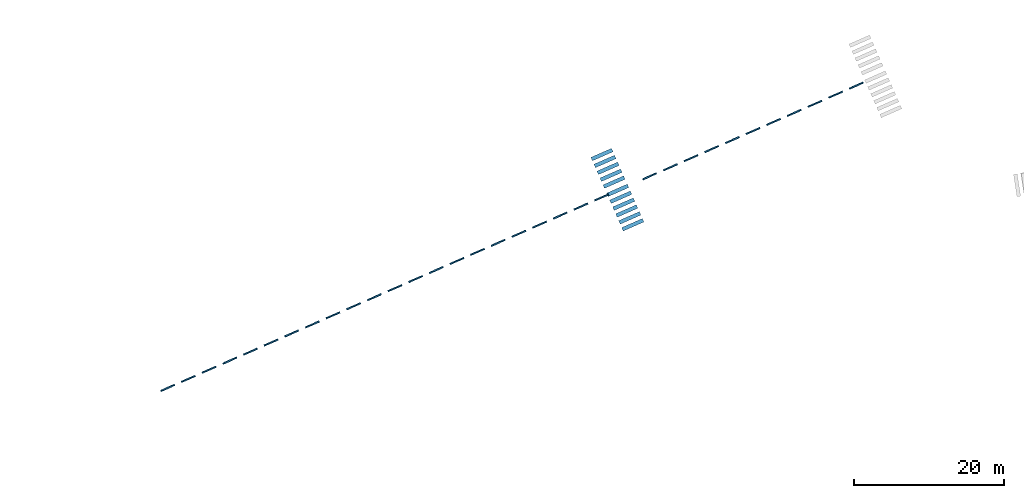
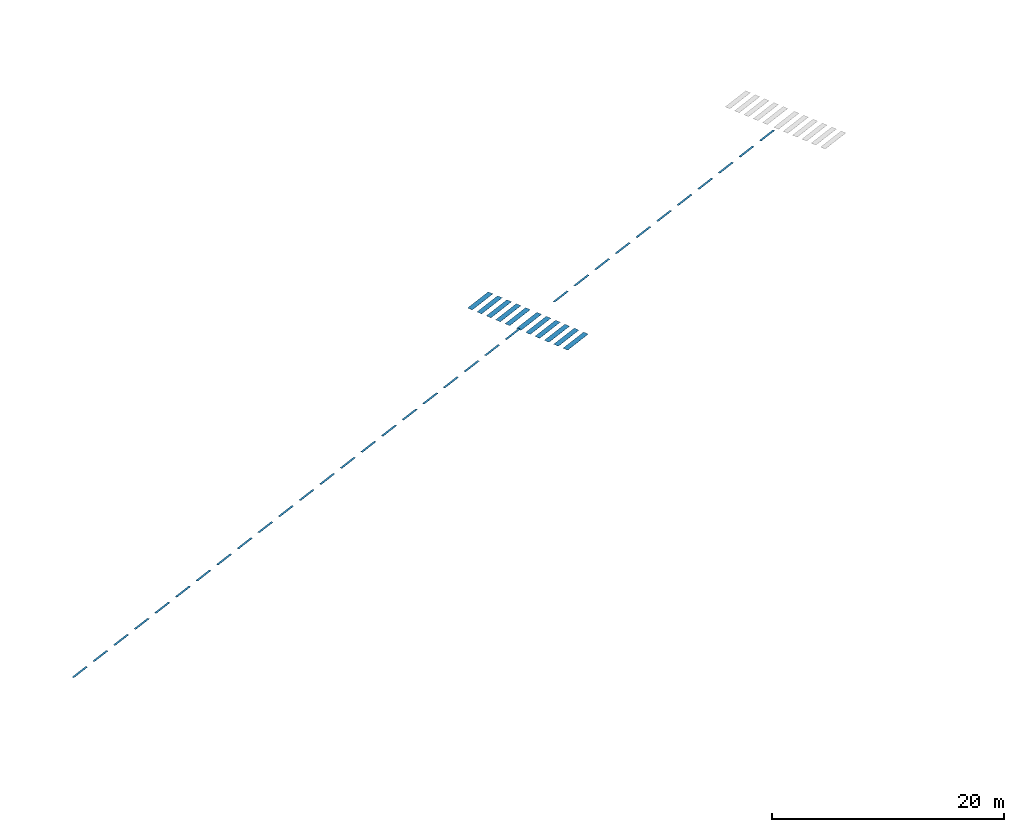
# One storey, part 82 of 112: 44 walls.
"""IFC2X3 building model written with IfcOpenShell, lengths in millimetres."""

from ifc_helpers import new_model, entity, si_unit, converted_unit, derived_unit, direction, frame, frame_2d, origin, origin_2d_with_axis, place, context, subcontext, project, spatial, rectangle, extrude, material, type_object, element, save


model = new_model("IFC2X3")

# Units and contexts
model_context = context("Model", 3, precision=0.01, world=origin(), true_north=direction((6.123031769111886e-17, 1.0)))
body_context = subcontext(model_context, "Body", "Model", "MODEL_VIEW")
ifc_project = project(units=[si_unit("LENGTHUNIT", "METRE", prefix="MILLI"), si_unit("AREAUNIT", "SQUARE_METRE"), si_unit("VOLUMEUNIT", "CUBIC_METRE"), converted_unit("PLANEANGLEUNIT", "DEGREE", entity("IfcRatioMeasure", 0.017453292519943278), si_unit("PLANEANGLEUNIT", "RADIAN"), dimensions=[0, 0, 0, 0, 0, 0, 0]), si_unit("MASSUNIT", "GRAM", prefix="KILO"), derived_unit("MASSDENSITYUNIT", [(si_unit("MASSUNIT", "GRAM", prefix="KILO"), 1), (si_unit("LENGTHUNIT", "METRE"), -3)]), derived_unit("MOMENTOFINERTIAUNIT", [(si_unit("LENGTHUNIT", "METRE"), 4)]), si_unit("TIMEUNIT", "SECOND"), si_unit("FREQUENCYUNIT", "HERTZ"), si_unit("THERMODYNAMICTEMPERATUREUNIT", "DEGREE_CELSIUS"), derived_unit("THERMALTRANSMITTANCEUNIT", [(si_unit("MASSUNIT", "GRAM", prefix="KILO"), 1), (si_unit("THERMODYNAMICTEMPERATUREUNIT", "KELVIN"), -1), (si_unit("TIMEUNIT", "SECOND"), -3)]), derived_unit("THERMALCONDUCTANCEUNIT", [(si_unit("MASSUNIT", "GRAM", prefix="KILO"), 1), (si_unit("LENGTHUNIT", "METRE"), 1), (si_unit("THERMODYNAMICTEMPERATUREUNIT", "KELVIN"), -1), (si_unit("TIMEUNIT", "SECOND"), -3)]), derived_unit("VOLUMETRICFLOWRATEUNIT", [(si_unit("LENGTHUNIT", "METRE"), 3), (si_unit("TIMEUNIT", "SECOND"), -1)]), derived_unit("MASSFLOWRATEUNIT", [(si_unit("MASSUNIT", "GRAM", prefix="KILO"), 1), (si_unit("TIMEUNIT", "SECOND"), -1)]), derived_unit("ROTATIONALFREQUENCYUNIT", [(si_unit("TIMEUNIT", "SECOND"), -1)]), si_unit("ELECTRICCURRENTUNIT", "AMPERE"), si_unit("ELECTRICVOLTAGEUNIT", "VOLT"), si_unit("POWERUNIT", "WATT"), converted_unit("FORCEUNIT", "KIP", entity("IfcRatioMeasure", 2.088543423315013e-05), si_unit("FORCEUNIT", "NEWTON"), dimensions=[1, 1, -2, 0, 0, 0, 0]), si_unit("ILLUMINANCEUNIT", "LUX"), si_unit("LUMINOUSFLUXUNIT", "LUMEN"), si_unit("LUMINOUSINTENSITYUNIT", "CANDELA"), derived_unit("USERDEFINED", [(si_unit("MASSUNIT", "GRAM", prefix="KILO"), -1), (si_unit("LENGTHUNIT", "METRE"), -2), (si_unit("TIMEUNIT", "SECOND"), 3), (si_unit("LUMINOUSFLUXUNIT", "LUMEN"), 1)]), derived_unit("USERDEFINED", [(si_unit("MASSUNIT", "GRAM", prefix="KILO"), 1), (si_unit("LENGTHUNIT", "METRE"), 3), (si_unit("TIMEUNIT", "SECOND"), -3), (si_unit("ELECTRICCURRENTUNIT", "AMPERE"), -2)]), derived_unit("USERDEFINED", [(si_unit("LENGTHUNIT", "METRE"), 2), (si_unit("TIMEUNIT", "SECOND"), -2)]), derived_unit("SOUNDPOWERUNIT", [(si_unit("MASSUNIT", "GRAM", prefix="KILO"), 1), (si_unit("LENGTHUNIT", "METRE"), 2), (si_unit("TIMEUNIT", "SECOND"), -3)]), derived_unit("SOUNDPRESSUREUNIT", [(si_unit("MASSUNIT", "GRAM", prefix="KILO"), 1), (si_unit("LENGTHUNIT", "METRE"), -1), (si_unit("TIMEUNIT", "SECOND"), -2)]), derived_unit("LINEARVELOCITYUNIT", [(si_unit("LENGTHUNIT", "METRE"), 1), (si_unit("TIMEUNIT", "SECOND"), -1)]), si_unit("PRESSUREUNIT", "PASCAL"), derived_unit("USERDEFINED", [(si_unit("LENGTHUNIT", "METRE"), -2), (si_unit("MASSUNIT", "GRAM", prefix="KILO"), 1), (si_unit("TIMEUNIT", "SECOND"), -2)]), derived_unit("LINEARFORCEUNIT", [(si_unit("MASSUNIT", "GRAM", prefix="KILO"), 1), (si_unit("LENGTHUNIT", "METRE"), 1), (si_unit("TIMEUNIT", "SECOND"), -2), (si_unit("LENGTHUNIT", "METRE"), -1)]), derived_unit("PLANARFORCEUNIT", [(si_unit("MASSUNIT", "GRAM", prefix="KILO"), 1), (si_unit("LENGTHUNIT", "METRE"), 1), (si_unit("TIMEUNIT", "SECOND"), -2), (si_unit("LENGTHUNIT", "METRE"), -2)]), derived_unit("SPECIFICHEATCAPACITYUNIT", [(si_unit("LENGTHUNIT", "METRE"), 2), (si_unit("TIMEUNIT", "SECOND"), -2), (si_unit("THERMODYNAMICTEMPERATUREUNIT", "KELVIN"), -1)]), derived_unit("VAPORPERMEABILITYUNIT", [(si_unit("TIMEUNIT", "SECOND"), 1), (si_unit("LENGTHUNIT", "METRE"), -1)]), derived_unit("DYNAMICVISCOSITYUNIT", [(si_unit("MASSUNIT", "GRAM", prefix="KILO"), 1), (si_unit("LENGTHUNIT", "METRE"), -1), (si_unit("TIMEUNIT", "SECOND"), -1)]), derived_unit("THERMALEXPANSIONCOEFFICIENTUNIT", [(si_unit("THERMODYNAMICTEMPERATUREUNIT", "KELVIN"), -1)])], contexts=[model_context])

# Site, building, storey
site_placement = place(None, frame((0.0, 0.0, 0.0), z_axis=(0.0, 0.0, 1.0), x_axis=(0.8191520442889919, 0.5735764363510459, 0.0)))
site = spatial("IfcSite", under=ifc_project, at=site_placement, Name="Default", CompositionType="ELEMENT")
building_placement = place(site_placement, origin())
building = spatial("IfcBuilding", under=site, at=building_placement, CompositionType="ELEMENT")
storey_placement = place(building_placement, frame((0.0, 0.0, -3600.0)))
storey = spatial("IfcBuildingStorey", under=building, at=storey_placement, Name="0.UG -3.60", CompositionType="ELEMENT", Elevation=-3600.0000000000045)

# Walls
ifc_material = material(Name="road_markirovka")
wall_type_1 = type_object("IfcWallType", Name="81", PredefinedType="NOTDEFINED", material=ifc_material)
wall_1_placement = place(storey_placement, frame((177587.2357149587, 400225.39520017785, 450.0)))
element("IfcWall", 1, at=wall_1_placement, inside=storey, type_object=wall_type_1, material=ifc_material, Name="81:81", ObjectType="81:81", context=body_context, shape_type="SweptSolid", body=[
    extrude(rectangle(XDim=200.00000000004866, YDim=2000.0000000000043, at=origin_2d_with_axis()), frame((1000.2111274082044, 293.9894016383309, 0.0), z_axis=(0.0, 0.0, 1.0), x_axis=(0.1959275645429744, 0.9806183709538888, 0.0)), (0.0, 0.0, 1.0), 9.999999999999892),
])
wall_type_2 = type_object("IfcWallType", Name="81", PredefinedType="NOTDEFINED", material=ifc_material)
wall_2_placement = place(storey_placement, frame((180529.09082782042, 399637.6125065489, 450.0)))
element("IfcWall", 2, at=wall_2_placement, inside=storey, type_object=wall_type_2, material=ifc_material, Name="81 203199:81 203199", ObjectType="81 203199:81 203199", context=body_context, shape_type="SweptSolid", body=[
    extrude(rectangle(XDim=200.00000000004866, YDim=1999.999999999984, at=frame_2d((3.739586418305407e-11, -1.0231815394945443e-11), x_axis=(1.0, 0.0))), frame((1000.2111274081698, 293.9894016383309, 0.0), z_axis=(0.0, 0.0, 1.0), x_axis=(0.1959275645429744, 0.9806183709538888, 0.0)), (0.0, 0.0, 1.0), 9.999999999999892),
])
wall_type_3 = type_object("IfcWallType", Name="81", PredefinedType="NOTDEFINED", material=ifc_material)
wall_3_placement = place(storey_placement, frame((183470.94594068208, 399049.8298129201, 450.0)))
element("IfcWall", 3, at=wall_3_placement, inside=storey, type_object=wall_type_3, material=ifc_material, Name="81 203208:81 203208", ObjectType="81 203208:81 203208", context=body_context, shape_type="SweptSolid", body=[
    extrude(rectangle(XDim=199.99999999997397, YDim=2000.0000000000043, at=frame_2d((6.794920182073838e-11, 1.3585577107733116e-11), x_axis=(1.0, 0.0))), frame((1000.2111274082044, 293.98940163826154, 0.0), z_axis=(0.0, 0.0, 1.0), x_axis=(0.19592756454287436, 0.9806183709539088, 0.0)), (0.0, 0.0, 1.0), 9.999999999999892),
])
wall_type_4 = type_object("IfcWallType", Name="81", PredefinedType="NOTDEFINED", material=ifc_material)
wall_4_placement = place(storey_placement, frame((174645.38060209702, 400813.17789380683, 450.0)))
element("IfcWall", 4, at=wall_4_placement, inside=storey, type_object=wall_type_4, material=ifc_material, Name="81 203229:81 203229", ObjectType="81 203229:81 203229", context=body_context, shape_type="SweptSolid", body=[
    extrude(rectangle(XDim=200.00000000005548, YDim=1999.999999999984, at=frame_2d((-3.396394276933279e-12, 1.693933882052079e-11), x_axis=(1.0, 0.0))), frame((1000.2111274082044, 293.9894016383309, 0.0), z_axis=(0.0, 0.0, 1.0), x_axis=(0.19592756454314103, 0.9806183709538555, 0.0)), (0.0, 0.0, 1.0), 9.999999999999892),
])
wall_type_5 = type_object("IfcWallType", Name="81", PredefinedType="NOTDEFINED", material=ifc_material)
wall_5_placement = place(storey_placement, frame((186412.80105354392, 398462.0471192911, 450.0)))
element("IfcWall", 5, at=wall_5_placement, inside=storey, type_object=wall_type_5, material=ifc_material, Name="81 203270:81 203270", ObjectType="81 203270:81 203270", context=body_context, shape_type="SweptSolid", body=[
    extrude(rectangle(XDim=200.00000000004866, YDim=2000.0000000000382, at=frame_2d((3.396394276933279e-12, -1.693933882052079e-11), x_axis=(1.0, 0.0))), frame((1000.2111274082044, 293.9894016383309, 0.0), z_axis=(0.0, 0.0, 1.0), x_axis=(0.1959275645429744, 0.9806183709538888, 0.0)), (0.0, 0.0, 1.0), 9.999999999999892),
])
wall_type_6 = type_object("IfcWallType", Name="81", PredefinedType="NOTDEFINED", material=ifc_material)
wall_6_placement = place(storey_placement, frame((189354.65616640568, 397874.2644256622, 450.0)))
element("IfcWall", 6, at=wall_6_placement, inside=storey, type_object=wall_type_6, material=ifc_material, Name="81 203274:81 203274", ObjectType="81 203274:81 203274", context=body_context, shape_type="SweptSolid", body=[
    extrude(rectangle(XDim=199.99999999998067, YDim=2000.0000000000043, at=frame_2d((6.45670183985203e-11, 3.058175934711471e-11), x_axis=(1.0, 0.0))), frame((1000.211127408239, 293.98940163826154, 0.0), z_axis=(0.0, 0.0, 1.0), x_axis=(0.195927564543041, 0.9806183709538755, 0.0)), (0.0, 0.0, 1.0), 9.999999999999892),
])
wall_type_7 = type_object("IfcWallType", Name="81", PredefinedType="NOTDEFINED", material=ifc_material)
wall_7_placement = place(storey_placement, frame((195238.36639212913, 396698.69903840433, 450.0)))
element("IfcWall", 7, at=wall_7_placement, inside=storey, type_object=wall_type_7, material=ifc_material, Name="81 203276:81 203276", ObjectType="81 203276:81 203276", context=body_context, shape_type="SweptSolid", body=[
    extrude(rectangle(XDim=200.00000000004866, YDim=1999.999999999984, at=frame_2d((3.739586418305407e-11, -1.0231815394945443e-11), x_axis=(1.0, 0.0))), frame((1000.2111274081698, 293.9894016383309, 0.0), z_axis=(0.0, 0.0, 1.0), x_axis=(0.1959275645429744, 0.9806183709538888, 0.0)), (0.0, 0.0, 1.0), 9.999999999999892),
])
wall_type_8 = type_object("IfcWallType", Name="81", PredefinedType="NOTDEFINED", material=ifc_material)
wall_8_placement = place(storey_placement, frame((192296.5112792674, 397286.4817320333, 450.0)))
element("IfcWall", 8, at=wall_8_placement, inside=storey, type_object=wall_type_8, material=ifc_material, Name="81 203282:81 203282", ObjectType="81 203282:81 203282", context=body_context, shape_type="SweptSolid", body=[
    extrude(rectangle(XDim=199.99999999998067, YDim=2000.0000000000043, at=frame_2d((7.136691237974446e-11, -3.410605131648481e-12), x_axis=(1.0, 0.0))), frame((1000.2111274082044, 293.98940163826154, 0.0), z_axis=(0.0, 0.0, 1.0), x_axis=(0.195927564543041, 0.9806183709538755, 0.0)), (0.0, 0.0, 1.0), 9.999999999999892),
])
wall_type_9 = type_object("IfcWallType", Name="81", PredefinedType="NOTDEFINED", material=ifc_material)
wall_9_placement = place(storey_placement, frame((198180.2215049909, 396110.9163447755, 450.0)))
element("IfcWall", 9, at=wall_9_placement, inside=storey, type_object=wall_type_9, material=ifc_material, Name="81 203300:81 203300", ObjectType="81 203300:81 203300", context=body_context, shape_type="SweptSolid", body=[
    extrude(rectangle(XDim=200.00000000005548, YDim=1999.99999999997, at=frame_2d((3.057465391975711e-11, 2.3874235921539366e-11), x_axis=(1.0, 0.0))), frame((1000.2111274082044, 293.9894016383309, 0.0), z_axis=(0.0, 0.0, 1.0), x_axis=(0.19592756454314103, 0.9806183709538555, 0.0)), (0.0, 0.0, 1.0), 9.999999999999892),
])
wall_type_10 = type_object("IfcWallType", Name="81", PredefinedType="NOTDEFINED", material=ifc_material)
wall_10_placement = place(storey_placement, frame((165819.8152635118, 402576.5259746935, 450.0)))
element("IfcWall", 10, at=wall_10_placement, inside=storey, type_object=wall_type_10, material=ifc_material, Name="81 203321:81 203321", ObjectType="81 203321:81 203321", context=body_context, shape_type="SweptSolid", body=[
    extrude(rectangle(XDim=200.00000000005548, YDim=1999.999999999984, at=frame_2d((3.397815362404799e-11, 6.764366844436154e-12), x_axis=(1.0, 0.0))), frame((1000.2111274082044, 293.9894016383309, 0.0), z_axis=(0.0, 0.0, 1.0), x_axis=(0.19592756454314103, 0.9806183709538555, 0.0)), (0.0, 0.0, 1.0), 9.999999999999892),
])
wall_type_11 = type_object("IfcWallType", Name="81", PredefinedType="NOTDEFINED", material=ifc_material)
wall_11_placement = place(storey_placement, frame((204063.9317307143, 394935.35095751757, 450.0)))
element("IfcWall", 11, at=wall_11_placement, inside=storey, type_object=wall_type_11, material=ifc_material, Name="81 203322:81 203322", ObjectType="81 203322:81 203322", context=body_context, shape_type="SweptSolid", body=[
    extrude(rectangle(XDim=199.99999999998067, YDim=2000.0000000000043, at=frame_2d((6.797051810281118e-11, 1.3585577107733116e-11), x_axis=(1.0, 0.0))), frame((1000.2111274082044, 293.98940163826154, 0.0), z_axis=(0.0, 0.0, 1.0), x_axis=(0.195927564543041, 0.9806183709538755, 0.0)), (0.0, 0.0, 1.0), 9.999999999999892),
])
wall_type_12 = type_object("IfcWallType", Name="81", PredefinedType="NOTDEFINED", material=ifc_material)
wall_12_placement = place(storey_placement, frame((201122.07661785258, 395523.1336511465, 450.0)))
element("IfcWall", 12, at=wall_12_placement, inside=storey, type_object=wall_type_12, material=ifc_material, Name="81 203329:81 203329", ObjectType="81 203329:81 203329", context=body_context, shape_type="SweptSolid", body=[
    extrude(rectangle(XDim=199.9999999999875, YDim=1999.999999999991, at=frame_2d((6.45670183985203e-11, 3.058175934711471e-11), x_axis=(1.0, 0.0))), frame((1000.211127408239, 293.98940163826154, 0.0), z_axis=(0.0, 0.0, 1.0), x_axis=(0.1959275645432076, 0.9806183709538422, 0.0)), (0.0, 0.0, 1.0), 9.999999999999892),
])
wall_type_13 = type_object("IfcWallType", Name="81", PredefinedType="NOTDEFINED", material=ifc_material)
wall_13_placement = place(storey_placement, frame((168761.67037637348, 401988.7432810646, 450.0)))
element("IfcWall", 13, at=wall_13_placement, inside=storey, type_object=wall_type_13, material=ifc_material, Name="81 203334:81 203334", ObjectType="81 203334:81 203334", context=body_context, shape_type="SweptSolid", body=[
    extrude(rectangle(XDim=200.00000000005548, YDim=1999.9999999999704, at=frame_2d((3.397815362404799e-11, 6.764366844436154e-12), x_axis=(1.0, 0.0))), frame((1000.2111274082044, 293.9894016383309, 0.0), z_axis=(0.0, 0.0, 1.0), x_axis=(0.19592756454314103, 0.9806183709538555, 0.0)), (0.0, 0.0, 1.0), 9.999999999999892),
])
wall_type_14 = type_object("IfcWallType", Name="81", PredefinedType="NOTDEFINED", material=ifc_material)
wall_14_placement = place(storey_placement, frame((162877.96015065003, 403164.3086683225, 450.0)))
element("IfcWall", 14, at=wall_14_placement, inside=storey, type_object=wall_type_14, material=ifc_material, Name="81 203335:81 203335", ObjectType="81 203335:81 203335", context=body_context, shape_type="SweptSolid", body=[
    extrude(rectangle(XDim=200.00000000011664, YDim=1999.999999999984, at=frame_2d((-6.794920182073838e-11, -1.3585577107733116e-11), x_axis=(1.0, 0.0))), frame((1000.2111274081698, 293.9894016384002, 0.0), z_axis=(0.0, 0.0, 1.0), x_axis=(0.19592756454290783, 0.9806183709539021, 0.0)), (0.0, 0.0, 1.0), 9.999999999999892),
])
wall_type_15 = type_object("IfcWallType", Name="81", PredefinedType="NOTDEFINED", material=ifc_material)
wall_15_placement = place(storey_placement, frame((159936.10503778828, 403752.0913619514, 450.0)))
element("IfcWall", 15, at=wall_15_placement, inside=storey, type_object=wall_type_15, material=ifc_material, Name="81 203340:81 203340", ObjectType="81 203340:81 203340", context=body_context, shape_type="SweptSolid", body=[
    extrude(rectangle(XDim=200.00000000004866, YDim=2000.0000000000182, at=origin_2d_with_axis()), frame((1000.2111274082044, 293.9894016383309, 0.0), z_axis=(0.0, 0.0, 1.0), x_axis=(0.1959275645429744, 0.9806183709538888, 0.0)), (0.0, 0.0, 1.0), 9.999999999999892),
])
wall_type_16 = type_object("IfcWallType", Name="81", PredefinedType="NOTDEFINED", material=ifc_material)
wall_16_placement = place(storey_placement, frame((156994.2499249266, 404339.8740555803, 450.0)))
element("IfcWall", 16, at=wall_16_placement, inside=storey, type_object=wall_type_16, material=ifc_material, Name="81 203342:81 203342", ObjectType="81 203342:81 203342", context=body_context, shape_type="SweptSolid", body=[
    extrude(rectangle(XDim=200.00000000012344, YDim=1999.9999999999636, at=frame_2d((-3.397104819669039e-11, -6.764366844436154e-12), x_axis=(1.0, 0.0))), frame((1000.2111274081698, 293.9894016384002, 0.0), z_axis=(0.0, 0.0, 1.0), x_axis=(0.19592756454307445, 0.9806183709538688, 0.0)), (0.0, 0.0, 1.0), 9.999999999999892),
])
wall_type_17 = type_object("IfcWallType", Name="81", PredefinedType="NOTDEFINED", material=ifc_material)
wall_17_placement = place(storey_placement, frame((151110.5396992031, 405515.4394428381, 450.0)))
element("IfcWall", 17, at=wall_17_placement, inside=storey, type_object=wall_type_17, material=ifc_material, Name="81 203344:81 203344", ObjectType="81 203344:81 203344", context=body_context, shape_type="SweptSolid", body=[
    extrude(rectangle(XDim=200.0000000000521, YDim=1999.999999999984, at=frame_2d((3.397104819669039e-11, 6.764366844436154e-12), x_axis=(1.0, 0.0))), frame((1000.211127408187, 293.9894016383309, 0.0), z_axis=(0.0, 0.0, 1.0), x_axis=(0.1959275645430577, 0.9806183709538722, 0.0)), (0.0, 0.0, 1.0), 9.999999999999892),
])
wall_type_18 = type_object("IfcWallType", Name="81", PredefinedType="NOTDEFINED", material=ifc_material)
wall_18_placement = place(storey_placement, frame((148168.6845863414, 406103.2221364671, 450.0)))
element("IfcWall", 18, at=wall_18_placement, inside=storey, type_object=wall_type_18, material=ifc_material, Name="81 203346:81 203346", ObjectType="81 203346:81 203346", context=body_context, shape_type="SweptSolid", body=[
    extrude(rectangle(XDim=200.00000000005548, YDim=2000.000000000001, at=frame_2d((-3.396394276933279e-12, 1.693933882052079e-11), x_axis=(1.0, 0.0))), frame((1000.2111274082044, 293.9894016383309, 0.0), z_axis=(0.0, 0.0, 1.0), x_axis=(0.19592756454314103, 0.9806183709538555, 0.0)), (0.0, 0.0, 1.0), 9.999999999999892),
])
wall_type_19 = type_object("IfcWallType", Name="81", PredefinedType="NOTDEFINED", material=ifc_material)
wall_19_placement = place(storey_placement, frame((142284.97436061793, 407278.7875237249, 450.0)))
element("IfcWall", 19, at=wall_19_placement, inside=storey, type_object=wall_type_19, material=ifc_material, Name="81 203348:81 203348", ObjectType="81 203348:81 203348", context=body_context, shape_type="SweptSolid", body=[
    extrude(rectangle(XDim=200.00000000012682, YDim=1999.9999999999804, at=frame_2d((-3.737454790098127e-11, 1.0231815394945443e-11), x_axis=(1.0, 0.0))), frame((1000.211127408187, 293.9894016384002, 0.0), z_axis=(0.0, 0.0, 1.0), x_axis=(0.19592756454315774, 0.9806183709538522, 0.0)), (0.0, 0.0, 1.0), 9.999999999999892),
])
wall_type_20 = type_object("IfcWallType", Name="81", PredefinedType="NOTDEFINED", material=ifc_material)
wall_20_placement = place(storey_placement, frame((145226.82947347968, 406691.004830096, 450.0)))
element("IfcWall", 20, at=wall_20_placement, inside=storey, type_object=wall_type_20, material=ifc_material, Name="81 203350:81 203350", ObjectType="81 203350:81 203350", context=body_context, shape_type="SweptSolid", body=[
    extrude(rectangle(XDim=200.00000000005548, YDim=2000.000000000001, at=frame_2d((-3.396394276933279e-12, 1.693933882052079e-11), x_axis=(1.0, 0.0))), frame((1000.2111274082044, 293.9894016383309, 0.0), z_axis=(0.0, 0.0, 1.0), x_axis=(0.19592756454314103, 0.9806183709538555, 0.0)), (0.0, 0.0, 1.0), 9.999999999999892),
])
wall_type_21 = type_object("IfcWallType", Name="81", PredefinedType="NOTDEFINED", material=ifc_material)
wall_21_placement = place(storey_placement, frame((240346.81145600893, 387686.0310694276, 450.0)))
element("IfcWall", 21, at=wall_21_placement, inside=storey, type_object=wall_type_21, material=ifc_material, Name="81 203352:81 203352", ObjectType="81 203352:81 203352", context=body_context, shape_type="SweptSolid", body=[
    extrude(rectangle(XDim=200.00000000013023, YDim=1999.9999999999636, at=frame_2d((-3.737454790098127e-11, 1.0231815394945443e-11), x_axis=(1.0, 0.0))), frame((1000.2111274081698, 293.9894016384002, 0.0), z_axis=(0.0, 0.0, 1.0), x_axis=(0.19592756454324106, 0.9806183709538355, 0.0)), (0.0, 0.0, 1.0), 9.99999999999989),
])
wall_type_22 = type_object("IfcWallType", Name="81", PredefinedType="NOTDEFINED", material=ifc_material)
wall_22_placement = place(storey_placement, frame((234463.10123028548, 388861.5964566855, 450.0)))
element("IfcWall", 22, at=wall_22_placement, inside=storey, type_object=wall_type_22, material=ifc_material, Name="81 203353:81 203353", ObjectType="81 203353:81 203353", context=body_context, shape_type="SweptSolid", body=[
    extrude(rectangle(XDim=200.00000000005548, YDim=1999.99999999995, at=frame_2d((3.397815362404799e-11, 6.764366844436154e-12), x_axis=(1.0, 0.0))), frame((1000.2111274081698, 293.9894016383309, 0.0), z_axis=(0.0, 0.0, 1.0), x_axis=(0.19592756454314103, 0.9806183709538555, 0.0)), (0.0, 0.0, 1.0), 9.999999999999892),
])
wall_type_23 = type_object("IfcWallType", Name="81", PredefinedType="NOTDEFINED", material=ifc_material)
wall_23_placement = place(storey_placement, frame((231521.2461174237, 389449.37915031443, 450.0)))
element("IfcWall", 23, at=wall_23_placement, inside=storey, type_object=wall_type_23, material=ifc_material, Name="81 203355:81 203355", ObjectType="81 203355:81 203355", context=body_context, shape_type="SweptSolid", body=[
    extrude(rectangle(XDim=200.00000000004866, YDim=1999.9999999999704, at=frame_2d((3.40349970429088e-12, -1.6996182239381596e-11), x_axis=(1.0, 0.0))), frame((1000.2111274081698, 293.9894016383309, 0.0), z_axis=(0.0, 0.0, 1.0), x_axis=(0.1959275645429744, 0.9806183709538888, 0.0)), (0.0, 0.0, 1.0), 9.999999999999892),
])
wall_type_24 = type_object("IfcWallType", Name="81", PredefinedType="NOTDEFINED", material=ifc_material)
wall_24_placement = place(storey_placement, frame((228579.391004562, 390037.16184394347, 450.0)))
element("IfcWall", 24, at=wall_24_placement, inside=storey, type_object=wall_type_24, material=ifc_material, Name="81 203356:81 203356", ObjectType="81 203356:81 203356", context=body_context, shape_type="SweptSolid", body=[
    extrude(rectangle(XDim=200.00000000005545, YDim=1999.9999999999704, at=origin_2d_with_axis()), frame((1000.2111274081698, 293.9894016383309, 0.0), z_axis=(0.0, 0.0, 1.0), x_axis=(0.19592756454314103, 0.9806183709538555, 0.0)), (0.0, 0.0, 1.0), 9.999999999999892),
])
wall_type_25 = type_object("IfcWallType", Name="81", PredefinedType="NOTDEFINED", material=ifc_material)
wall_25_placement = place(storey_placement, frame((154052.3948120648, 404927.6567492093, 450.0)))
element("IfcWall", 25, at=wall_25_placement, inside=storey, type_object=wall_type_25, material=ifc_material, Name="81 203358:81 203358", ObjectType="81 203358:81 203358", context=body_context, shape_type="SweptSolid", body=[
    extrude(rectangle(XDim=200.00000000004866, YDim=1999.9999999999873, at=frame_2d((3.398525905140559e-11, 6.764366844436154e-12), x_axis=(1.0, 0.0))), frame((1000.2111274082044, 293.9894016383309, 0.0), z_axis=(0.0, 0.0, 1.0), x_axis=(0.1959275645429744, 0.9806183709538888, 0.0)), (0.0, 0.0, 1.0), 9.999999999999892),
])
wall_type_26 = type_object("IfcWallType", Name="81", PredefinedType="NOTDEFINED", material=ifc_material)
wall_26_placement = place(storey_placement, frame((225637.53589170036, 390624.9445375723, 450.0)))
element("IfcWall", 26, at=wall_26_placement, inside=storey, type_object=wall_type_26, material=ifc_material, Name="81 203360:81 203360", ObjectType="81 203360:81 203360", context=body_context, shape_type="SweptSolid", body=[
    extrude(rectangle(XDim=200.00000000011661, YDim=1999.9999999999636, at=frame_2d((-3.737454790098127e-11, 1.0174971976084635e-11), x_axis=(1.0, 0.0))), frame((1000.2111274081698, 293.9894016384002, 0.0), z_axis=(0.0, 0.0, 1.0), x_axis=(0.19592756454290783, 0.9806183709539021, 0.0)), (0.0, 0.0, 1.0), 9.999999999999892),
])
wall_type_27 = type_object("IfcWallType", Name="81", PredefinedType="NOTDEFINED", material=ifc_material)
wall_27_placement = place(storey_placement, frame((222695.6807788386, 391212.72723120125, 450.0)))
element("IfcWall", 27, at=wall_27_placement, inside=storey, type_object=wall_type_27, material=ifc_material, Name="81 203362:81 203362", ObjectType="81 203362:81 203362", context=body_context, shape_type="SweptSolid", body=[
    extrude(rectangle(XDim=200.00000000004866, YDim=1999.999999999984, at=frame_2d((3.40349970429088e-12, -1.6996182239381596e-11), x_axis=(1.0, 0.0))), frame((1000.2111274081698, 293.9894016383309, 0.0), z_axis=(0.0, 0.0, 1.0), x_axis=(0.1959275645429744, 0.9806183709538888, 0.0)), (0.0, 0.0, 1.0), 9.999999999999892),
])
wall_type_28 = type_object("IfcWallType", Name="81", PredefinedType="NOTDEFINED", material=ifc_material)
wall_28_placement = place(storey_placement, frame((237404.95634314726, 388273.8137630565, 450.0)))
element("IfcWall", 28, at=wall_28_placement, inside=storey, type_object=wall_type_28, material=ifc_material, Name="81 203364:81 203364", ObjectType="81 203364:81 203364", context=body_context, shape_type="SweptSolid", body=[
    extrude(rectangle(XDim=199.99999999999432, YDim=1999.99999999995, at=frame_2d((3.057465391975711e-11, 2.376054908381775e-11), x_axis=(1.0, 0.0))), frame((1000.2111274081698, 293.9894016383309, 0.0), z_axis=(0.0, 0.0, 1.0), x_axis=(0.19592756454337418, 0.9806183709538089, 0.0)), (0.0, 0.0, 1.0), 9.999999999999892),
])
wall_type_29 = type_object("IfcWallType", Name="81", PredefinedType="NOTDEFINED", material=ifc_material)
wall_29_placement = place(storey_placement, frame((216811.97055311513, 392388.292618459, 450.0)))
element("IfcWall", 29, at=wall_29_placement, inside=storey, type_object=wall_type_29, material=ifc_material, Name="81 203366:81 203366", ObjectType="81 203366:81 203366", context=body_context, shape_type="SweptSolid", body=[
    extrude(rectangle(XDim=200.00000000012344, YDim=1999.99999999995, at=frame_2d((-3.737454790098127e-11, 1.0231815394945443e-11), x_axis=(1.0, 0.0))), frame((1000.2111274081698, 293.9894016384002, 0.0), z_axis=(0.0, 0.0, 1.0), x_axis=(0.19592756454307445, 0.9806183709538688, 0.0)), (0.0, 0.0, 1.0), 9.999999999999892),
])
wall_type_30 = type_object("IfcWallType", Name="81", PredefinedType="NOTDEFINED", material=ifc_material)
wall_30_placement = place(storey_placement, frame((219753.8256659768, 391800.5099248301, 450.0)))
element("IfcWall", 30, at=wall_30_placement, inside=storey, type_object=wall_type_30, material=ifc_material, Name="81 203367:81 203367", ObjectType="81 203367:81 203367", context=body_context, shape_type="SweptSolid", body=[
    extrude(rectangle(XDim=200.00000000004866, YDim=1999.999999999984, at=frame_2d((3.739586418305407e-11, -1.0231815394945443e-11), x_axis=(1.0, 0.0))), frame((1000.2111274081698, 293.9894016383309, 0.0), z_axis=(0.0, 0.0, 1.0), x_axis=(0.1959275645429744, 0.9806183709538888, 0.0)), (0.0, 0.0, 1.0), 9.999999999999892),
])
wall_type_31 = type_object("IfcWallType", Name="81", PredefinedType="NOTDEFINED", material=ifc_material)
wall_31_placement = place(storey_placement, frame((213870.1154402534, 392976.07531208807, 450.0)))
element("IfcWall", 31, at=wall_31_placement, inside=storey, type_object=wall_type_31, material=ifc_material, Name="81 203372:81 203372", ObjectType="81 203372:81 203372", context=body_context, shape_type="SweptSolid", body=[
    extrude(rectangle(XDim=200.00000000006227, YDim=1999.9999999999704, at=frame_2d((-3.40349970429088e-12, 1.688249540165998e-11), x_axis=(1.0, 0.0))), frame((1000.2111274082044, 293.9894016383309, 0.0), z_axis=(0.0, 0.0, 1.0), x_axis=(0.19592756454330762, 0.9806183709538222, 0.0)), (0.0, 0.0, 1.0), 9.999999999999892),
])
wall_type_32 = type_object("IfcWallType", Name="81", PredefinedType="NOTDEFINED", material=ifc_material)
wall_32_placement = place(storey_placement, frame((171703.5254892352, 401400.9605874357, 450.0)))
element("IfcWall", 32, at=wall_32_placement, inside=storey, type_object=wall_type_32, material=ifc_material, Name="81 203375:81 203375", ObjectType="81 203375:81 203375", context=body_context, shape_type="SweptSolid", body=[
    extrude(rectangle(XDim=200.00000000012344, YDim=1999.9999999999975, at=frame_2d((-3.737454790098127e-11, 1.0231815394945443e-11), x_axis=(1.0, 0.0))), frame((1000.2111274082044, 293.9894016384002, 0.0), z_axis=(0.0, 0.0, 1.0), x_axis=(0.19592756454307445, 0.9806183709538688, 0.0)), (0.0, 0.0, 1.0), 9.999999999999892),
])
wall_type_33 = type_object("IfcWallType", Name="81", PredefinedType="NOTDEFINED", material=ifc_material)
wall_33_placement = place(storey_placement, frame((210928.26032739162, 393563.8580057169, 450.0)))
element("IfcWall", 33, at=wall_33_placement, inside=storey, type_object=wall_type_33, material=ifc_material, Name="81 203376:81 203376", ObjectType="81 203376:81 203376", context=body_context, shape_type="SweptSolid", body=[
    extrude(rectangle(XDim=200.00000000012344, YDim=1999.9999999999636, at=frame_2d((-3.737454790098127e-11, 1.0231815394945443e-11), x_axis=(1.0, 0.0))), frame((1000.2111274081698, 293.9894016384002, 0.0), z_axis=(0.0, 0.0, 1.0), x_axis=(0.19592756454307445, 0.9806183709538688, 0.0)), (0.0, 0.0, 1.0), 9.999999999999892),
])
wall_type_34 = type_object("IfcWallType", Name="81", PredefinedType="NOTDEFINED", material=ifc_material)
wall_34_placement = place(storey_placement, frame((205065.00567979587, 390307.3852938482, 450.0)))
element("IfcWall", 34, at=wall_34_placement, inside=storey, type_object=wall_type_34, material=ifc_material, Name="81 206999:81 206999", ObjectType="81 206999:81 206999", context=body_context, shape_type="SweptSolid", body=[
    extrude(rectangle(XDim=499.9999999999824, YDim=3000.0000000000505, at=frame_2d((3.396394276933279e-11, 6.821210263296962e-12), x_axis=(1.0, 0.0))), frame((1519.9094475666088, 539.0459395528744, 0.0), z_axis=(0.0, 0.0, 1.0), x_axis=(0.19592756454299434, 0.9806183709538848, 0.0)), (0.0, 0.0, 1.0), 9.999999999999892),
])
wall_type_35 = type_object("IfcWallType", Name="81", PredefinedType="NOTDEFINED", material=ifc_material)
wall_35_placement = place(storey_placement, frame((204869.0781152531, 389326.7669228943, 450.0)))
element("IfcWall", 35, at=wall_35_placement, inside=storey, type_object=wall_type_35, material=ifc_material, Name="81 207014:81 207014", ObjectType="81 207014:81 207014", context=body_context, shape_type="SweptSolid", body=[
    extrude(rectangle(XDim=499.99999999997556, YDim=3000.0000000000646, at=frame_2d((-6.45457021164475e-11, -3.0809133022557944e-11), x_axis=(1.0, 0.0))), frame((1519.909447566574, 539.045939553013, 0.0), z_axis=(0.0, 0.0, 1.0), x_axis=(0.1959275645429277, 0.9806183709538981, 0.0)), (0.0, 0.0, 1.0), 9.999999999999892),
])
wall_type_36 = type_object("IfcWallType", Name="81", PredefinedType="NOTDEFINED", material=ifc_material)
wall_36_placement = place(storey_placement, frame((205456.86080888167, 392268.6220357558, 450.0)))
element("IfcWall", 36, at=wall_36_placement, inside=storey, type_object=wall_type_36, material=ifc_material, Name="81 207025:81 207025", ObjectType="81 207025:81 207025", context=body_context, shape_type="SweptSolid", body=[
    extrude(rectangle(XDim=500.00000000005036, YDim=2999.9999999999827, at=frame_2d((3.397815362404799e-11, 6.821210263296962e-12), x_axis=(1.0, 0.0))), frame((1519.909447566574, 539.0459395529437, 0.0), z_axis=(0.0, 0.0, 1.0), x_axis=(0.1959275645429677, 0.9806183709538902, 0.0)), (0.0, 0.0, 1.0), 9.999999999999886),
])
wall_type_37 = type_object("IfcWallType", Name="81", PredefinedType="NOTDEFINED", material=ifc_material)
wall_37_placement = place(storey_placement, frame((206671.61170904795, 398348.4559356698, 450.0)))
element("IfcWall", 37, at=wall_37_placement, inside=storey, type_object=wall_type_37, material=ifc_material, Name="81 207027:81 207027", ObjectType="81 207027:81 207027", context=body_context, shape_type="SweptSolid", body=[
    extrude(rectangle(XDim=500.00000000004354, YDim=2999.9999999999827, at=origin_2d_with_axis()), frame((1519.909447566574, 539.0459395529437, 0.0), z_axis=(0.0, 0.0, 1.0), x_axis=(0.19592756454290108, 0.9806183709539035, 0.0)), (0.0, 0.0, 1.0), 9.999999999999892),
])
wall_type_38 = type_object("IfcWallType", Name="81", PredefinedType="NOTDEFINED", material=ifc_material)
wall_38_placement = place(storey_placement, frame((206475.68414450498, 397367.8375647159, 450.0)))
element("IfcWall", 38, at=wall_38_placement, inside=storey, type_object=wall_type_38, material=ifc_material, Name="81 207029:81 207029", ObjectType="81 207029:81 207029", context=body_context, shape_type="SweptSolid", body=[
    extrude(rectangle(XDim=500.00000000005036, YDim=2999.9999999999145, at=frame_2d((3.382183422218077e-12, -1.7053025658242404e-11), x_axis=(1.0, 0.0))), frame((1519.909447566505, 539.0459395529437, 0.0), z_axis=(0.0, 0.0, 1.0), x_axis=(0.1959275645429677, 0.9806183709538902, 0.0)), (0.0, 0.0, 1.0), 9.999999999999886),
])
wall_type_39 = type_object("IfcWallType", Name="81", PredefinedType="NOTDEFINED", material=ifc_material)
wall_39_placement = place(storey_placement, frame((205260.93324433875, 391288.00366480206, 450.0)))
element("IfcWall", 39, at=wall_39_placement, inside=storey, type_object=wall_type_39, material=ifc_material, Name="81 207030:81 207030", ObjectType="81 207030:81 207030", context=body_context, shape_type="SweptSolid", body=[
    extrude(rectangle(XDim=499.9999999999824, YDim=3000.0000000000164, at=frame_2d((-3.410605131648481e-12, 1.693933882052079e-11), x_axis=(1.0, 0.0))), frame((1519.9094475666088, 539.0459395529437, 0.0), z_axis=(0.0, 0.0, 1.0), x_axis=(0.19592756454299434, 0.9806183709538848, 0.0)), (0.0, 0.0, 1.0), 9.999999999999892),
])
wall_type_40 = type_object("IfcWallType", Name="81", PredefinedType="NOTDEFINED", material=ifc_material)
wall_40_placement = place(storey_placement, frame((205652.7883734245, 393249.2404067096, 450.0)))
element("IfcWall", 40, at=wall_40_placement, inside=storey, type_object=wall_type_40, material=ifc_material, Name="81 207034:81 207034", ObjectType="81 207034:81 207034", context=body_context, shape_type="SweptSolid", body=[
    extrude(rectangle(XDim=499.99999999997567, YDim=3000.000000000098, at=frame_2d((3.396394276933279e-11, 6.821210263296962e-12), x_axis=(1.0, 0.0))), frame((1519.9094475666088, 539.0459395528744, 0.0), z_axis=(0.0, 0.0, 1.0), x_axis=(0.1959275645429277, 0.9806183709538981, 0.0)), (0.0, 0.0, 1.0), 9.999999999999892),
])
wall_type_41 = type_object("IfcWallType", Name="81", PredefinedType="NOTDEFINED", material=ifc_material)
wall_41_placement = place(storey_placement, frame((206867.53927359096, 399329.07430662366, 450.0)))
element("IfcWall", 41, at=wall_41_placement, inside=storey, type_object=wall_type_41, material=ifc_material, Name="81 207036:81 207036", ObjectType="81 207036:81 207036", context=body_context, shape_type="SweptSolid", body=[
    extrude(rectangle(XDim=500.00000000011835, YDim=3000.0000000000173, at=frame_2d((-3.410605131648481e-12, 1.6825651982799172e-11), x_axis=(1.0, 0.0))), frame((1519.9094475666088, 539.0459395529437, 0.0), z_axis=(0.0, 0.0, 1.0), x_axis=(0.19592756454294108, 0.9806183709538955, 0.0)), (0.0, 0.0, 1.0), 9.999999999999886),
])
wall_type_42 = type_object("IfcWallType", Name="81", PredefinedType="NOTDEFINED", material=ifc_material)
wall_42_placement = place(storey_placement, frame((205848.71593796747, 394229.85877766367, 450.0)))
element("IfcWall", 42, at=wall_42_placement, inside=storey, type_object=wall_type_42, material=ifc_material, Name="81 207038:81 207038", ObjectType="81 207038:81 207038", context=body_context, shape_type="SweptSolid", body=[
    extrude(rectangle(XDim=500.00000000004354, YDim=2999.9999999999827, at=origin_2d_with_axis()), frame((1519.909447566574, 539.0459395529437, 0.0), z_axis=(0.0, 0.0, 1.0), x_axis=(0.19592756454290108, 0.9806183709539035, 0.0)), (0.0, 0.0, 1.0), 9.999999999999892),
])
wall_type_43 = type_object("IfcWallType", Name="81", PredefinedType="NOTDEFINED", material=ifc_material)
wall_43_placement = place(storey_placement, frame((206083.82901541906, 395406.60082280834, 450.0)))
element("IfcWall", 43, at=wall_43_placement, inside=storey, type_object=wall_type_43, material=ifc_material, Name="81 207039:81 207039", ObjectType="81 207039:81 207039", context=body_context, shape_type="SweptSolid", body=[
    extrude(rectangle(XDim=500.0000000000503, YDim=2999.999999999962, at=frame_2d((-7.133849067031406e-11, 3.524291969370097e-12), x_axis=(1.0, 0.0))), frame((1519.909447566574, 539.045939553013, 0.0), z_axis=(0.0, 0.0, 1.0), x_axis=(0.1959275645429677, 0.9806183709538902, 0.0)), (0.0, 0.0, 1.0), 9.999999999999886),
])
wall_type_44 = type_object("IfcWallType", Name="81", PredefinedType="NOTDEFINED", material=ifc_material)
wall_44_placement = place(storey_placement, frame((206279.75657996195, 396387.21919376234, 450.0)))
element("IfcWall", 44, at=wall_44_placement, inside=storey, type_object=wall_type_44, material=ifc_material, Name="81 207044:81 207044", ObjectType="81 207044:81 207044", context=body_context, shape_type="SweptSolid", body=[
    extrude(rectangle(XDim=499.99999999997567, YDim=3000.0000000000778, at=origin_2d_with_axis()), frame((1519.9094475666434, 539.0459395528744, 0.0), z_axis=(0.0, 0.0, 1.0), x_axis=(0.1959275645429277, 0.9806183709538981, 0.0)), (0.0, 0.0, 1.0), 9.999999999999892),
])

save(model, "model.ifc")
